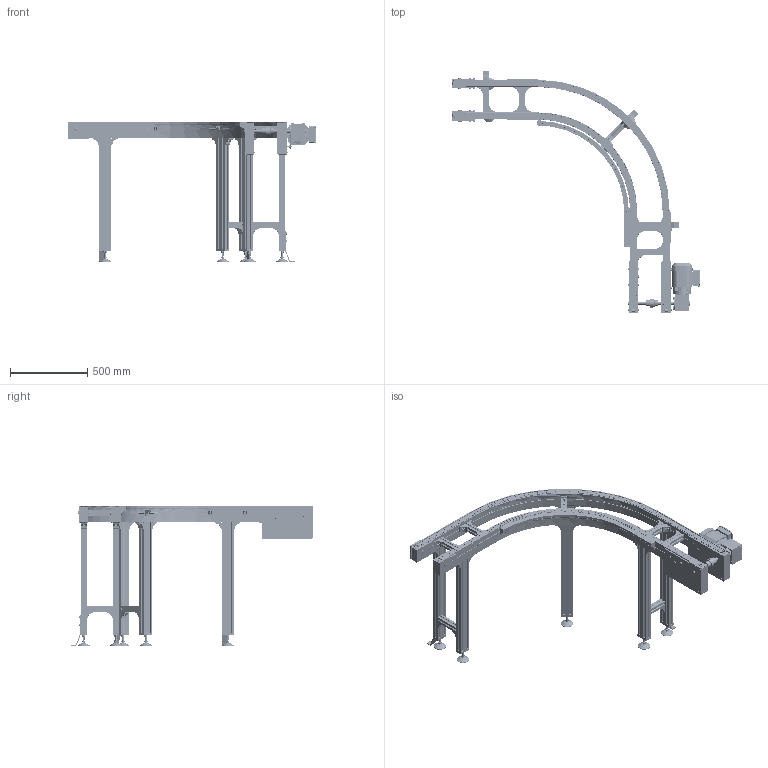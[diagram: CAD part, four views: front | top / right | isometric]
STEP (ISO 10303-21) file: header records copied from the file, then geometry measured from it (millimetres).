
FILE_DESCRIPTION(/* description */ (''),/* implementation_level */ '2;1');
FILE_NAME(/* name */ 'C:\Marketing\01_Versamove-SPU_STEP-Dateien-Homepage\VersamoveStandard\B240\STEP-Dateien\Flachplattenförderer_FPF-P-2045_Kurve90-rechts_B240.stp',/* time_stamp */ '2016-12-16T12:29:19+01:00',/* author */ ('herbert.engels'),/* organization */ (''),/* preprocessor_version */ 'ST-DEVELOPER v15.6',/* originating_system */ 'Autodesk Inventor 2015',/* authorisation */ '');
FILE_SCHEMA (('CONFIG_CONTROL_DESIGN'));
Products named in the file (1): Flachplattenförderer_Kurve90-rechts_B240
Bounding box: 1609.7 x 1563 x 905.3 mm (x, y, z)
Volume: 31910793.7 mm3; surface area: 7628184.8 mm2
Topology: 5 solids, 5 shells, 8663 faces, 24423 edges, 15567 vertices
Faces by surface type: plane 5636, cylinder 2166, cone 484, torus 293, sphere 68, bspline 16
Full cylindrical faces by diameter (mm): 2 x8, 6 x14, 7.323 x4, 8 x115, 8.7 x4, 9 x12, 10 x8, 10.066 x1, 11 x4, 11.4 x22, 12 x12, 13 x108, 13.6 x8, 14 x72, 15 x12, 16 x16, 18 x4, 19 x4, 19.77 x4, 20 x17, 25 x1, 25.05 x4, 28 x1, 30 x2, 40 x2, 53 x1, 54 x2, 56 x3, 79 x6, 117 x1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
Entity records: 287677 total; most frequent: CARTESIAN_POINT 56054, ORIENTED_EDGE 46932, DIRECTION 45514, EDGE_CURVE 23442, LINE 16112, VECTOR 16112, VERTEX_POINT 15309, AXIS2_PLACEMENT_3D 14701
